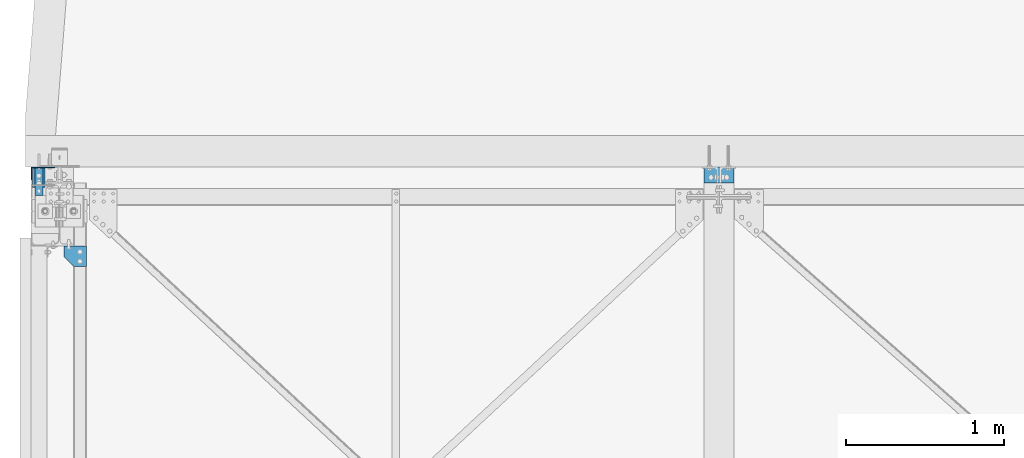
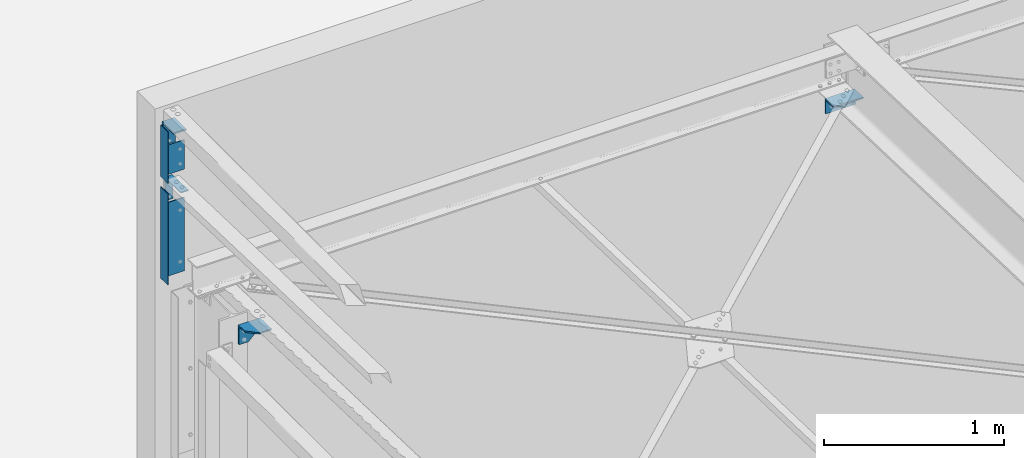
# One storey, part 354 of 362: 6 beams, 6 elements without a shape of their own.
"""IFC2X3 building model written with IfcOpenShell, lengths in millimetres."""

from ifc_helpers import new_model, si_unit, frame, origin_with_axes, place, context, subcontext, project, spatial, faceted_brep, material, type_object, element, aggregate, save


model = new_model("IFC2X3")

# Units and contexts
model_context = context("Model", 3, precision=1e-05, world=origin_with_axes())
body_context = subcontext(model_context, "Body", "Model", "MODEL_VIEW")
ifc_project = project(units=[si_unit("LENGTHUNIT", "METRE", prefix="MILLI"), si_unit("AREAUNIT", "SQUARE_METRE"), si_unit("VOLUMEUNIT", "CUBIC_METRE"), si_unit("MASSUNIT", "GRAM", prefix="KILO"), si_unit("TIMEUNIT", "SECOND"), si_unit("PLANEANGLEUNIT", "RADIAN"), si_unit("SOLIDANGLEUNIT", "STERADIAN"), si_unit("THERMODYNAMICTEMPERATUREUNIT", "DEGREE_CELSIUS"), si_unit("LUMINOUSINTENSITYUNIT", "LUMEN")], contexts=[model_context])

# Site, building, storey
site_placement = place(None, origin_with_axes())
site = spatial("IfcSite", under=ifc_project, at=site_placement, Name="Undefined", CompositionType="ELEMENT")
building_placement = place(site_placement, origin_with_axes())
building = spatial("IfcBuilding", under=site, at=building_placement, Name="Undefined", CompositionType="ELEMENT")
storey_placement = place(building_placement, origin_with_axes())
storey = spatial("IfcBuildingStorey", under=building, at=storey_placement, Name="Undefined", CompositionType="ELEMENT", Elevation=0.0)

# Assembly, beam
assembly_1_placement = place(storey_placement, origin_with_axes())
assembly_1 = element("IfcElementAssembly", 1, at=assembly_1_placement, inside=storey, AssemblyPlace="NOTDEFINED", PredefinedType="NOTDEFINED")
ifc_material = material(Name="Undefined/S235-E24")
beam_type_1 = type_object("IfcBeamType", Name="PL10*80", PredefinedType="NOTDEFINED")
beam_1_placement = place(assembly_1_placement, frame((-129.997016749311, 15385.0, 8289.99702093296), z_axis=(1.0, 0.0, 0.0), x_axis=(0.0, 0.0, 1.0)))
beam_1 = element("IfcBeam", 2, at=beam_1_placement, type_object=beam_type_1, material=ifc_material, Name="ATTACHE", ObjectType="PL10*80", context=body_context, shape_type="Brep", body=[
    faceted_brep([(0.0, -5.0, -40.0), (0.0, -5.0, 40.0), (0.0, 5.0, 40.0), (0.0, 5.0, -40.0), (149.999999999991, 5.00000000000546, 40.0), (149.999999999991, 5.00000000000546, -40.0), (159.999999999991, -4.99999999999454, -40.0), (159.999999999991, -4.99999999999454, 40.0), (149.999999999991, 124.999999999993, 40.0), (149.999999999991, 124.999999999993, -40.0), (159.999999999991, 124.999999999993, 40.0), (159.999999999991, 124.999999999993, -40.0)], [[[0, 1, 2, 3]], [[3, 2, 4, 5]], [[1, 0, 6, 7]], [[5, 4, 8, 9]], [[4, 2, 1, 7, 10, 8]], [[7, 6, 11, 10]], [[6, 0, 3, 5, 9, 11]], [[10, 11, 9, 8]]]),
])
aggregate(assembly_1, [beam_1])

assembly_2_placement = place(storey_placement, origin_with_axes())
assembly_2 = element("IfcElementAssembly", 3, at=assembly_2_placement, inside=storey, AssemblyPlace="NOTDEFINED", PredefinedType="NOTDEFINED")
beam_type_2 = type_object("IfcBeamType", Name="PL5*350", PredefinedType="NOTDEFINED")
beam_2_placement = place(assembly_2_placement, frame((-30.0000010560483, 15387.5000012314, 8255.0000292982), z_axis=(0.0, 0.0, 1.0), x_axis=(-1.0, 0.0, 0.0)))
beam_2 = element("IfcBeam", 4, at=beam_2_placement, type_object=beam_type_2, material=ifc_material, Name="FEUILLURE", ObjectType="PL5*350", context=body_context, shape_type="Brep", body=[
    faceted_brep([(145.000030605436, -2.49999996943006, 174.999999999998), (145.000030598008, 2.50000003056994, 174.999999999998), (145.000030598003, 2.50000003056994, 25.0000000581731), (145.000030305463, -2.49999996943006, 25.0000000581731), (-2.12141827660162e-07, -2.5, 25.0000003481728), (-5.26775068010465e-10, 2.5, 25.0000003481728), (150.00003055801, -2.49999996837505, 174.999999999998), (150.000030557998, -2.49999996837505, -175.000000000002), (150.000031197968, 77.4999987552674, -175.000000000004), (150.000031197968, 77.4999987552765, 174.999999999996), (-5.29240651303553e-10, 2.5, -175.0), (5.24927656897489e-10, -2.5, -175.0), (145.000030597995, 2.50000003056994, -175.000000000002), (145.000031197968, 77.4999987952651, -175.000000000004), (145.000031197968, 77.4999987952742, 174.999999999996), (145.000031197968, 77.4999987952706, 25.0000000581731)], [[[0, 1, 2, 3]], [[4, 3, 2, 5]], [[6, 7, 8, 9]], [[10, 11, 4, 5]], [[12, 10, 5, 2]], [[7, 11, 10, 12, 13, 8]], [[14, 9, 8, 13, 15]], [[12, 2, 1, 14, 15, 13]], [[6, 9, 14, 1, 0]], [[11, 7, 6, 0, 3, 4]]]),
])
aggregate(assembly_2, [beam_2])

assembly_3_placement = place(storey_placement, origin_with_axes())
assembly_3 = element("IfcElementAssembly", 5, at=assembly_3_placement, inside=storey, AssemblyPlace="NOTDEFINED", PredefinedType="NOTDEFINED")
beam_type_3 = type_object("IfcBeamType", Name="PL6*50", PredefinedType="NOTDEFINED")
beam_3_placement = place(assembly_3_placement, frame((-129.999999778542, 15208.4649914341, 8070.29717217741), z_axis=(1.0, 0.0, 0.0), x_axis=(0.0, 0.99950644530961, -0.0314144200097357)))
beam_3 = element("IfcBeam", 6, at=beam_3_placement, type_object=beam_type_3, material=ifc_material, Name="ATTACHE", ObjectType="PL6*50", context=body_context, shape_type="Brep", body=[
    faceted_brep([(-5.16229192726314e-09, -3.0, -25.0), (-5.16229192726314e-09, -3.0, 25.0), (5.16229192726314e-09, 3.0, 25.0), (5.16229192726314e-09, 3.0, -25.0), (181.530360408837, 2.99999968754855, 25.0), (181.530360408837, 2.99999968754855, -25.0), (175.715977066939, -3.00000030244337, -25.0), (175.715977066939, -3.00000030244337, 25.0), (186.560119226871, -157.030978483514, 25.0), (186.560119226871, -157.030978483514, -25.0), (180.563080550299, -157.21946485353, 25.0), (180.563080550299, -157.21946485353, -25.0)], [[[0, 1, 2, 3]], [[3, 2, 4, 5]], [[1, 0, 6, 7]], [[5, 4, 8, 9]], [[4, 2, 1, 7, 10, 8]], [[7, 6, 11, 10]], [[6, 0, 3, 5, 9, 11]], [[10, 11, 9, 8]]]),
])
aggregate(assembly_3, [beam_3])

assembly_4_placement = place(storey_placement, origin_with_axes())
assembly_4 = element("IfcElementAssembly", 7, at=assembly_4_placement, inside=storey, AssemblyPlace="NOTDEFINED", PredefinedType="NOTDEFINED")
beam_type_4 = type_object("IfcBeamType", Name="PL10*140", PredefinedType="NOTDEFINED")
beam_4_placement = place(assembly_4_placement, frame((99.9999964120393, 14885.0000024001, 7171.92450426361), z_axis=(-1.0, 0.0, 0.0), x_axis=(0.0, 0.0, 1.0)))
beam_4 = element("IfcBeam", 8, at=beam_4_placement, type_object=beam_type_4, material=ifc_material, Name="ATTACHE", ObjectType="PL10*140", context=body_context, shape_type="Brep", body=[
    faceted_brep([(120.309326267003, -5.00000000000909, -70.0), (120.309326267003, -5.00000000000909, 70.0), (0.0, -5.0, 70.0), (6.65164634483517e-09, -4.99999999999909, 10.0000000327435), (79.9999957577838, -5.00000000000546, -70.0), (0.0, 5.0, 70.0), (-6.6516747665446e-09, 5.00000000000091, 10.0000000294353), (129.999999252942, 5.00000017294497, 70.0), (129.999999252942, 5.00000017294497, -70.0), (79.9999957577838, 4.99999999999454, -70.0), (134.083404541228, -124.935852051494, -70.0), (124.088338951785, -125.249960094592, -70.0), (134.083404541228, -124.935852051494, 9.99999676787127), (124.088338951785, -125.249960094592, 9.99999643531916), (122.203690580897, -65.2795629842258, 70.0), (132.198756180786, -64.9654552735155, 70.0)], [[[0, 1, 2, 3, 4]], [[2, 5, 6, 3]], [[5, 7, 8, 9, 6]], [[3, 6, 9, 4]], [[8, 10, 11, 0, 4, 9]], [[11, 10, 12, 13]], [[1, 0, 11, 13, 14]], [[7, 5, 2, 1, 14, 15]], [[10, 8, 7, 15, 12]], [[14, 13, 12, 15]]]),
])
aggregate(assembly_4, [beam_4])

assembly_5_placement = place(storey_placement, origin_with_axes())
assembly_5 = element("IfcElementAssembly", 9, at=assembly_5_placement, inside=storey, AssemblyPlace="NOTDEFINED", PredefinedType="NOTDEFINED")
beam_type_5 = type_object("IfcBeamType", Name="PL10*190", PredefinedType="NOTDEFINED")
beam_5_placement = place(assembly_5_placement, frame((4180.0, 15385.0, 7016.12760916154), z_axis=(-1.0, 0.0, 0.0), x_axis=(0.0, 0.0, 1.0)))
beam_5 = element("IfcBeam", 10, at=beam_5_placement, type_object=beam_type_5, material=ifc_material, Name="ATTACHE", ObjectType="PL10*190", context=body_context, shape_type="Brep", body=[
    faceted_brep([(0.0, -5.0, -95.0), (0.0, -5.0, 95.0), (0.0, 5.0, 95.0), (0.0, 5.0, -95.0), (100.000000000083, 5.0, 95.0), (100.000000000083, 5.0, -95.0), (90.3093257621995, -5.0, -95.0), (90.3093257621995, -5.0, 95.0), (103.141075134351, -94.9506530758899, 95.0), (103.141075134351, -94.9506530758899, -95.0), (93.1460095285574, -95.2647605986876, 95.0), (93.1460095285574, -95.2647605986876, -95.0)], [[[0, 1, 2, 3]], [[3, 2, 4, 5]], [[1, 0, 6, 7]], [[5, 4, 8, 9]], [[4, 2, 1, 7, 10, 8]], [[7, 6, 11, 10]], [[6, 0, 3, 5, 9, 11]], [[10, 11, 9, 8]]]),
])
aggregate(assembly_5, [beam_5])

assembly_6_placement = place(storey_placement, origin_with_axes())
assembly_6 = element("IfcElementAssembly", 11, at=assembly_6_placement, inside=storey, AssemblyPlace="NOTDEFINED", PredefinedType="NOTDEFINED")
beam_type_6 = type_object("IfcBeamType", Name="PL5*620", PredefinedType="NOTDEFINED")
beam_6_placement = place(assembly_6_placement, frame((-29.9999993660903, 15387.5000012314, 7700.0000292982), z_axis=(0.0, 0.0, 1.0), x_axis=(-1.0, 0.0, 0.0)))
beam_6 = element("IfcBeam", 12, at=beam_6_placement, type_object=beam_type_6, material=ifc_material, Name="FEUILLURE", ObjectType="PL5*620", context=body_context, shape_type="Brep", body=[
    faceted_brep([(145.000030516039, -2.4999999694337, 309.999999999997), (145.000030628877, 2.5000000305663, 309.999999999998), (145.000030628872, 2.5000000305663, 189.999999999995), (145.000030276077, -2.4999999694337, 189.999999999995), (-2.41539584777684e-07, -2.5, 190.000000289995), (-5.24092769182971e-10, 2.5, 190.000000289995), (150.000030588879, -2.49999996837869, 309.999999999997), (150.000030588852, -2.49999996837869, -310.000000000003), (150.000031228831, 77.49999872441, -310.000000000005), (150.000031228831, 77.4999987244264, 309.999999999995), (-5.31798605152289e-10, 2.5, -310.0), (5.22245358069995e-10, -2.5, -310.0), (145.00003062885, 2.5000000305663, -310.000000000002), (145.000031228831, 77.499998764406, -310.000000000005), (145.000031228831, 77.4999987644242, 309.999999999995), (145.000031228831, 77.4999987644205, 189.999999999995)], [[[0, 1, 2, 3]], [[4, 3, 2, 5]], [[6, 7, 8, 9]], [[10, 11, 4, 5]], [[12, 10, 5, 2]], [[7, 11, 10, 12, 13, 8]], [[14, 9, 8, 13, 15]], [[12, 2, 1, 14, 15, 13]], [[6, 9, 14, 1, 0]], [[11, 7, 6, 0, 3, 4]]]),
])
aggregate(assembly_6, [beam_6])

save(model, "model.ifc")
